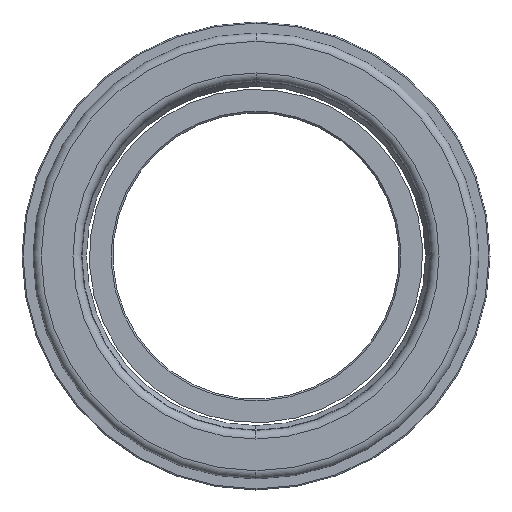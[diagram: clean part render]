
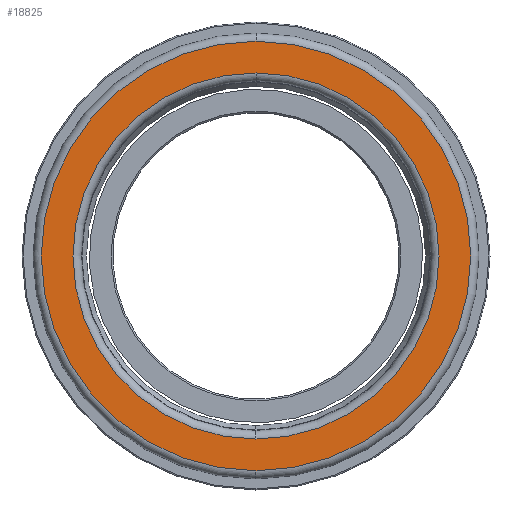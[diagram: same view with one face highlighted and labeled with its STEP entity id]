
A CAD part, left-side view. The second image highlights one B-rep face of the part: STEP entity #18825.
In plain terms, the highlighted planar face has unit normal (-1, 0, 0).
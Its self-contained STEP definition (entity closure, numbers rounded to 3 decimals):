
#885 = AXIS2_PLACEMENT_3D ( 'NONE', #1852, #35447, #27942 ) ;
#1852 = CARTESIAN_POINT ( 'NONE',  ( 0., 0., 0. ) ) ;
#2546 = EDGE_LOOP ( 'NONE', ( #3216, #32019 ) ) ;
#2851 = CARTESIAN_POINT ( 'NONE',  ( 0., 0., 0. ) ) ;
#3216 = ORIENTED_EDGE ( 'NONE', *, *, #32385, .T. ) ;
#3258 = VERTEX_POINT ( 'NONE', #8232 ) ;
#3808 = AXIS2_PLACEMENT_3D ( 'NONE', #2851, #6602, #18027 ) ;
#4019 = DIRECTION ( 'NONE',  ( -1., 0., 0. ) ) ;
#5027 = DIRECTION ( 'NONE',  ( 0., 0., 1. ) ) ;
#6602 = DIRECTION ( 'NONE',  ( -1., 0., 0. ) ) ;
#8232 = CARTESIAN_POINT ( 'NONE',  ( 0., 0., 39. ) ) ;
#8842 = AXIS2_PLACEMENT_3D ( 'NONE', #23814, #45870, #5027 ) ;
#9631 = DIRECTION ( 'NONE',  ( 1., 0., 0. ) ) ;
#12205 = EDGE_CURVE ( 'NONE', #40530, #46966, #26454, .T. ) ;
#13040 = EDGE_CURVE ( 'NONE', #46966, #40530, #18113, .T. ) ;
#13538 = PLANE ( 'NONE',  #38698 ) ;
#14694 = ORIENTED_EDGE ( 'NONE', *, *, #12205, .F. ) ;
#15129 = CARTESIAN_POINT ( 'NONE',  ( 0., 0., 0. ) ) ;
#15550 = ORIENTED_EDGE ( 'NONE', *, *, #13040, .F. ) ;
#16065 = CIRCLE ( 'NONE', #885, 39. ) ;
#16809 = CARTESIAN_POINT ( 'NONE',  ( 0., 0., 33.25 ) ) ;
#18027 = DIRECTION ( 'NONE',  ( 0., 0., 1. ) ) ;
#18113 = CIRCLE ( 'NONE', #35763, 33.25 ) ;
#18825 = ADVANCED_FACE ( 'NONE', ( #39754, #28056 ), #13538, .F. ) ;
#21130 = CARTESIAN_POINT ( 'NONE',  ( 0., 0., -33.25 ) ) ;
#22239 = CIRCLE ( 'NONE', #3808, 39. ) ;
#23814 = CARTESIAN_POINT ( 'NONE',  ( 0., 0., 0. ) ) ;
#26454 = CIRCLE ( 'NONE', #8842, 33.25 ) ;
#27942 = DIRECTION ( 'NONE',  ( 0., 0., 1. ) ) ;
#28056 = FACE_OUTER_BOUND ( 'NONE', #2546, .T. ) ;
#32019 = ORIENTED_EDGE ( 'NONE', *, *, #34627, .T. ) ;
#32385 = EDGE_CURVE ( 'NONE', #3258, #34097, #22239, .T. ) ;
#34097 = VERTEX_POINT ( 'NONE', #44299 ) ;
#34627 = EDGE_CURVE ( 'NONE', #34097, #3258, #16065, .T. ) ;
#35327 = EDGE_LOOP ( 'NONE', ( #14694, #15550 ) ) ;
#35447 = DIRECTION ( 'NONE',  ( -1., 0., 0. ) ) ;
#35763 = AXIS2_PLACEMENT_3D ( 'NONE', #15129, #4019, #43715 ) ;
#38698 = AXIS2_PLACEMENT_3D ( 'NONE', #46686, #9631, #46521 ) ;
#39754 = FACE_BOUND ( 'NONE', #35327, .T. ) ;
#40530 = VERTEX_POINT ( 'NONE', #16809 ) ;
#43715 = DIRECTION ( 'NONE',  ( 0., 0., 1. ) ) ;
#44299 = CARTESIAN_POINT ( 'NONE',  ( 0., 0., -39. ) ) ;
#45870 = DIRECTION ( 'NONE',  ( -1., 0., 0. ) ) ;
#46521 = DIRECTION ( 'NONE',  ( 0., 0., -1. ) ) ;
#46686 = CARTESIAN_POINT ( 'NONE',  ( 0., 39., 0. ) ) ;
#46966 = VERTEX_POINT ( 'NONE', #21130 ) ;
